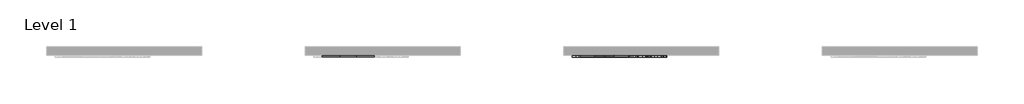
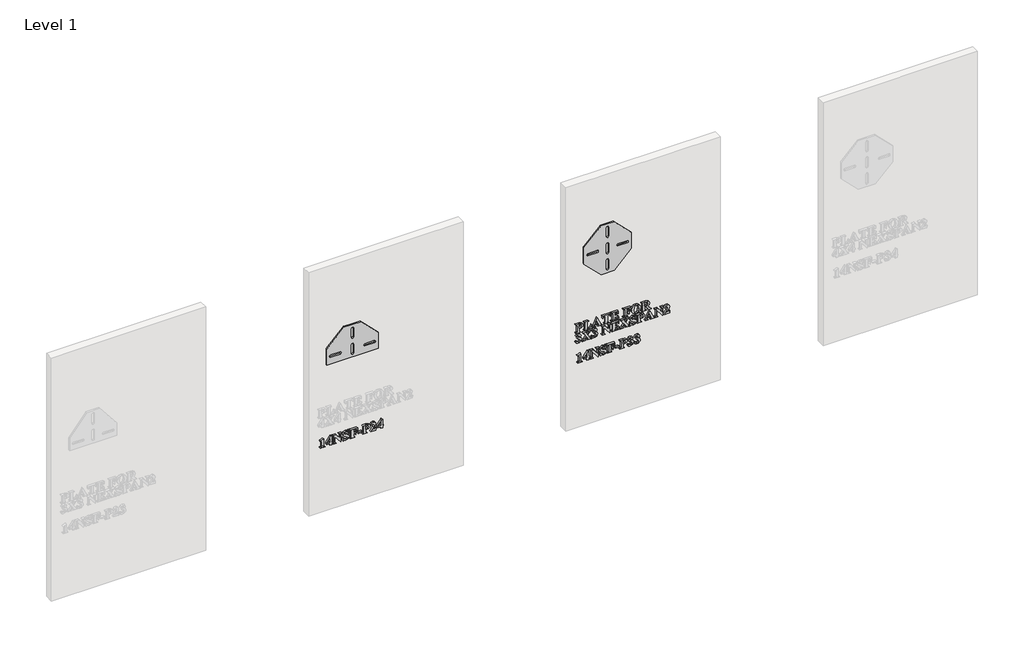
# One storey, part 16 of 21: 5 proxies.
"""IFC4 building model written with IfcOpenShell, lengths in millimetres."""

from ifc_helpers import new_model, si_unit, frame, origin, place, context, project, spatial, polyline, outline, extrude, transform, mapped, element, save
from components import generic_models_2657ff51, generic_models_131348a9

model = new_model("IFC4")

# Units and contexts
model_context = context("Model", 3, world=origin())
ifc_project = project(units=[si_unit("LENGTHUNIT", "METRE", prefix="MILLI")], contexts=[model_context])

# Site, building, storey
site = spatial("IfcSite", under=ifc_project)
building = spatial("IfcBuilding", under=site)
storey = spatial("IfcBuildingStorey", under=building, Name="Level 1", Elevation=0.0)

# Proxies
placement = place(None, origin())
element("IfcBuildingElementProxy", 1, Name="2\"\" Arial", ObjectType="2\"\" Arial", at=placement, inside=storey, context=model_context, shape_type="SweptSolid", body=[
    extrude(outline(polyline([(463.8692305, 25314.9409375), (455.0050049, 25295.1834097), (453.2321598, 25295.8482267), (454.4648412, 25300.4049926), (453.827725, 25302.4825455), (452.3111114, 25303.7152269), (447.9136245, 25304.0476353), (421.3209478, 25304.0476353), (415.2544934, 25303.5282471), (413.2046413, 25301.5407215), (412.4567222, 25295.1834097), (410.6838771, 25295.1834097), (410.6838771, 25323.5489316), (412.4567222, 25322.3162502), (413.273893, 25317.8425863), (415.3791466, 25316.0074146), (421.3209478, 25315.5711285), (463.8692305, 25314.9409375)])), frame((0.0, -15490.3579358, 0.0), z_axis=(0.0, 1.0, 0.0), x_axis=(0.0, 0.0, 1.0)), (0.0, 0.0, 1.0), 12.7),
    extrude(outline(polyline([(430.1851733, 25332.4131571), (422.2073703, 25332.4131571), (422.2073703, 25351.0280308), (410.6838771, 25351.0280308), (410.6838771, 25362.551524), (422.2073703, 25362.551524), (422.2073703, 25366.9836368), (430.1851733, 25366.9836368), (430.1851733, 25362.551524), (463.8692305, 25362.551524), (463.8692305, 25357.440744), (430.1851733, 25332.4131571)]), holes=[polyline([(430.1851733, 25335.1001255), (451.6116686, 25351.0280308), (430.1851733, 25351.0280308), (430.1851733, 25335.1001255)])]), frame((0.0, -15490.3579358, 0.0), z_axis=(0.0, 1.0, 0.0), x_axis=(0.0, 0.0, 1.0)), (0.0, 0.0, 1.0), 12.7),
    extrude(outline(polyline([(462.9828079, 25389.6151127), (462.9828079, 25371.194144), (461.2099628, 25371.194144), (460.6074725, 25374.8575622), (457.4565173, 25378.50713), (419.5481027, 25378.50713), (414.097989, 25376.9489654), (412.4567222, 25371.4157496), (410.6838771, 25371.4157496), (410.6838771, 25389.1442007), (412.4567222, 25388.0500229), (413.9179344, 25383.8741416), (419.5481027, 25382.0528203), (452.9551528, 25382.0528203), (409.7974546, 25415.8753809), (409.7974546, 25417.5097225), (452.3457373, 25417.5097225), (457.7820006, 25418.1676143), (460.0673087, 25420.002786), (461.2099628, 25424.601103), (462.9828079, 25424.601103), (462.9828079, 25406.8726518), (461.2099628, 25406.8726518), (458.9662057, 25412.7036502), (452.3457373, 25413.9640323), (431.9164674, 25413.9640323), (462.9828079, 25389.6151127)])), frame((0.0, -15490.3579358, 0.0), z_axis=(0.0, 1.0, 0.0), x_axis=(0.0, 0.0, 1.0)), (0.0, 0.0, 1.0), 12.7),
    extrude(outline(polyline([(463.8692305, 25465.3765406), (463.8692305, 25463.6036955), (460.9329558, 25462.4956673), (460.3235403, 25460.8613257), (461.5631468, 25457.100955), (463.259815, 25452.5511142), (463.8692305, 25447.4680349), (459.5409954, 25435.5359562), (449.0493534, 25430.8060609), (442.4427353, 25432.4404025), (437.0064719, 25437.1218216), (431.0992966, 25447.9666475), (427.0549937, 25455.7228449), (423.7863105, 25458.9846029), (420.2267699, 25460.0580052), (414.7905066, 25457.3918124), (412.4567222, 25450.224255), (416.771107, 25439.3725039), (429.2987508, 25432.578906), (429.2987508, 25430.8060609), (409.7974546, 25430.8060609), (409.7974546, 25432.578906), (412.4705726, 25434.4002273), (413.3431448, 25436.5401068), (412.4844229, 25439.6010347), (410.3583938, 25445.1481008), (409.7974546, 25449.8364451), (414.4788737, 25462.8973275), (425.6699585, 25468.0358082), (434.76964, 25465.4180916), (443.218355, 25452.7311688), (447.7058692, 25443.5899362), (451.2654098, 25439.6702864), (454.3263377, 25438.7838639), (459.1254848, 25441.2076756), (461.2099628, 25447.786593), (457.0756326, 25457.8003978), (446.1407794, 25463.6036955), (446.1407794, 25465.3765406), (463.8692305, 25465.3765406)])), frame((0.0, -15490.3579358, 0.0), z_axis=(0.0, 1.0, 0.0), x_axis=(0.0, 0.0, 1.0)), (0.0, 0.0, 1.0), 12.7),
    extrude(outline(polyline([(459.4371177, 25491.9692173), (459.4371177, 25496.40133), (458.8415526, 25504.9608478), (455.1296581, 25511.373561), (447.0272019, 25514.1297812), (447.0272019, 25515.9026263), (462.9828079, 25515.9026263), (462.9828079, 25472.467921), (461.2099628, 25472.467921), (461.2099628, 25474.1438137), (460.5035948, 25477.495599), (458.8484777, 25479.1507161), (454.1185824, 25479.5593015), (419.5481027, 25479.5593015), (414.963636, 25479.1576412), (413.2184916, 25477.6618032), (412.4567222, 25474.1438137), (412.4567222, 25472.467921), (410.6838771, 25472.467921), (410.6838771, 25499.0605977), (412.4567222, 25499.0605977), (412.4567222, 25497.3985554), (413.1630902, 25494.0536953), (414.8182073, 25492.391653), (419.5481027, 25491.9692173), (435.5037087, 25491.9692173), (435.5037087, 25493.7420624), (433.0868222, 25500.6533882), (423.0937929, 25504.379133), (423.0937929, 25506.1519782), (451.4593147, 25506.1519782), (451.4593147, 25504.379133), (444.0770768, 25502.5231858), (440.1989782, 25499.0398222), (439.0493989, 25493.7420624), (439.0493989, 25491.9692173), (459.4371177, 25491.9692173)])), frame((0.0, -15490.3579358, 0.0), z_axis=(0.0, 1.0, 0.0), x_axis=(0.0, 0.0, 1.0)), (0.0, 0.0, 1.0), 12.7),
    extrude(outline(polyline([(25541.6088804, -15490.3579358), (25519.4483165, -15490.3579358), (25519.4483165, -15477.6579358), (25541.6088804, -15477.6579358), (25541.6088804, -15490.3579358)])), frame((0.0, 0.0, 424.866638), z_axis=(0.0, 0.0, 1.0), x_axis=(1.0, 0.0, 0.0)), (0.0, 0.0, 1.0), 7.977803),
    extrude(outline(polyline([(434.6172861, 25565.5422894), (435.5314094, 25578.7970767), (440.427509, 25587.9313842), (449.0632037, 25591.2485436), (459.0077568, 25586.2000901), (462.9828079, 25569.5450413), (462.9828079, 25546.0409932), (461.2099628, 25546.0409932), (460.6074725, 25550.82629), (459.0008316, 25552.6199106), (454.1185824, 25553.1323736), (419.5481027, 25553.1323736), (414.6797038, 25552.6199106), (413.0730629, 25550.8470655), (412.4567222, 25546.0409932), (410.6838771, 25546.0409932), (410.6838771, 25572.6336699), (412.4567222, 25572.6336699), (413.0592126, 25567.8622235), (414.6658534, 25566.0547525), (419.5481027, 25565.5422894), (434.6172861, 25565.5422894)]), holes=[polyline([(460.3235403, 25565.5422894), (460.3235403, 25567.3289849), (457.5673201, 25575.9508293), (448.8831491, 25578.8386278), (440.0466243, 25575.9508293), (437.1934517, 25567.7306451), (437.2765538, 25565.5422894), (460.3235403, 25565.5422894)])]), frame((0.0, -15490.3579358, 0.0), z_axis=(0.0, 1.0, 0.0), x_axis=(0.0, 0.0, 1.0)), (0.0, 0.0, 1.0), 12.7),
    extrude(outline(polyline([(410.6838771, 25624.4478384), (425.7530606, 25626.0683296), (422.664432, 25623.9700012), (421.6256555, 25621.9339994), (421.3209478, 25616.5808382), (421.3209478, 25605.4174541), (440.8914958, 25622.1348295), (451.1269062, 25624.9326007), (457.0617823, 25623.0420276), (462.0479091, 25617.8135196), (463.8692305, 25610.4312817), (460.3650913, 25600.4382524), (449.0493534, 25595.4174997), (453.516092, 25599.5864557), (455.0050049, 25605.1681478), (452.3249617, 25611.6431875), (445.6006156, 25614.29553), (434.2294763, 25611.1930511), (410.6838771, 25593.0213887), (410.6838771, 25624.4478384)])), frame((0.0, -15490.3579358, 0.0), z_axis=(0.0, 1.0, 0.0), x_axis=(0.0, 0.0, 1.0)), (0.0, 0.0, 1.0), 12.7),
    extrude(outline(polyline([(430.1851733, 25634.6832488), (422.2073703, 25634.6832488), (422.2073703, 25653.2981225), (410.6838771, 25653.2981225), (410.6838771, 25664.8216157), (422.2073703, 25664.8216157), (422.2073703, 25669.2537285), (430.1851733, 25669.2537285), (430.1851733, 25664.8216157), (463.8692305, 25664.8216157), (463.8692305, 25659.7108357), (430.1851733, 25634.6832488)]), holes=[polyline([(430.1851733, 25637.3702172), (451.6116686, 25653.2981225), (430.1851733, 25653.2981225), (430.1851733, 25637.3702172)])]), frame((0.0, -15490.3579358, 0.0), z_axis=(0.0, 1.0, 0.0), x_axis=(0.0, 0.0, 1.0)), (0.0, 0.0, 1.0), 12.7),
])
element("IfcBuildingElementProxy", 2, Name="2\"\" Arial", ObjectType="2\"\" Arial", at=placement, inside=storey, context=model_context, shape_type="SweptSolid", body=[
    extrude(outline(polyline([(624.2127681, 26828.7890158), (625.1268914, 26842.043803), (630.022991, 26851.1781105), (638.6586857, 26854.4952699), (648.6032388, 26849.4468164), (652.5782899, 26832.7917676), (652.5782899, 26809.2877195), (650.8054448, 26809.2877195), (650.2029545, 26814.0730163), (648.5963136, 26815.8666369), (643.7140644, 26816.3791), (609.1435847, 26816.3791), (604.2751858, 26815.8666369), (602.6685449, 26814.0937918), (602.0522042, 26809.2877195), (600.2793591, 26809.2877195), (600.2793591, 26835.8803962), (602.0522042, 26835.8803962), (602.6546946, 26831.1089498), (604.2613354, 26829.3014788), (609.1435847, 26828.7890158), (624.2127681, 26828.7890158)]), holes=[polyline([(649.9190223, 26828.7890158), (649.9190223, 26830.5757112), (647.1628021, 26839.1975556), (638.4786311, 26842.0853541), (629.6421063, 26839.1975556), (626.7889337, 26830.9773714), (626.8720358, 26828.7890158), (649.9190223, 26828.7890158)])]), frame((0.0, -15490.3579358, 0.0), z_axis=(0.0, 1.0, 0.0), x_axis=(0.0, 0.0, 1.0)), (0.0, 0.0, 1.0), 12.7),
    extrude(outline(polyline([(619.7806553, 26905.9077782), (619.7806553, 26904.1349331), (610.1269597, 26900.3399365), (605.3416629, 26895.5892656), (603.8250493, 26888.7194908), (603.8250493, 26884.4120312), (604.1713081, 26879.7998638), (605.7848742, 26877.999318), (610.8333277, 26877.5422564), (643.7140644, 26877.5422564), (648.298531, 26877.9162159), (650.0436754, 26879.3289518), (650.8054448, 26882.597635), (650.8054448, 26884.6336368), (652.5782899, 26884.6336368), (652.5782899, 26858.0409601), (650.8054448, 26858.0409601), (650.8054448, 26859.7168528), (650.0990768, 26863.0686381), (648.4439597, 26864.7237552), (643.7140644, 26865.1323406), (609.1435847, 26865.1323406), (604.559118, 26864.7306804), (602.8139736, 26863.2348423), (602.0522042, 26859.7168528), (602.0522042, 26858.0409601), (600.2793591, 26858.0409601), (600.2793591, 26904.1349331), (619.7806553, 26905.9077782)])), frame((0.0, -15490.3579358, 0.0), z_axis=(0.0, 1.0, 0.0), x_axis=(0.0, 0.0, 1.0)), (0.0, 0.0, 1.0), 12.7),
    extrude(outline(polyline([(615.3485426, 26940.8660677), (608.7003734, 26943.7884921), (604.559118, 26945.1735273), (602.869375, 26944.3286558), (602.0522042, 26939.0101205), (600.2793591, 26939.0101205), (600.2793591, 26964.4116669), (602.0522042, 26964.4116669), (603.4095388, 26960.7136228), (610.9025794, 26956.28151), (653.4647125, 26936.6278599), (612.066009, 26917.8052309), (604.3375124, 26913.3384922), (602.0522042, 26908.7193997), (600.2793591, 26908.7193997), (600.2793591, 26926.4894019), (602.0522042, 26926.4894019), (602.9386268, 26921.3647715), (606.0272554, 26919.5919264), (610.0300072, 26920.6722539), (615.3485426, 26923.0822152), (615.3485426, 26940.8660677)]), holes=[polyline([(618.8942328, 26939.3148283), (618.8942328, 26924.6888561), (635.2376487, 26932.0987946), (618.8942328, 26939.3148283)])]), frame((0.0, -15490.3579358, 0.0), z_axis=(0.0, 1.0, 0.0), x_axis=(0.0, 0.0, 1.0)), (0.0, 0.0, 1.0), 12.7),
    extrude(outline(polyline([(652.5782899, 27014.05133), (652.5782899, 26967.9573571), (637.5091065, 26967.9573571), (637.5091065, 26969.7302022), (646.7195908, 26973.8299065), (649.0325997, 26981.2536955), (649.0325997, 26984.7993857), (609.1435847, 26984.7993857), (604.559118, 26984.3977255), (602.8139736, 26982.8741867), (602.0522042, 26979.3700475), (602.0522042, 26977.7080052), (600.2793591, 26977.7080052), (600.2793591, 27004.3006819), (602.0522042, 27004.3006819), (602.0522042, 27002.65249), (602.7585722, 26999.2868543), (604.4136893, 26997.6317372), (609.1435847, 26997.2093015), (649.0325997, 26997.2093015), (649.0325997, 27000.7549917), (648.3123814, 27005.6857172), (644.7874667, 27009.646918), (637.5091065, 27012.2784849), (637.5091065, 27014.05133), (652.5782899, 27014.05133)])), frame((0.0, -15490.3579358, 0.0), z_axis=(0.0, 1.0, 0.0), x_axis=(0.0, 0.0, 1.0)), (0.0, 0.0, 1.0), 12.7),
    extrude(outline(polyline([(649.0325997, 27038.8711616), (649.0325997, 27043.3032744), (648.3400821, 27051.3364788), (644.7320653, 27057.0289737), (636.6226839, 27060.145303), (636.6226839, 27061.9181481), (652.5782899, 27061.9181481), (652.5782899, 27019.3698654), (650.8054448, 27019.3698654), (650.8054448, 27021.045758), (649.7805187, 27024.896156), (647.827619, 27026.2811912), (643.7140644, 27026.4612458), (609.1435847, 27026.4612458), (604.559118, 27026.0595856), (602.8139736, 27024.5637475), (602.0522042, 27021.045758), (602.0522042, 27019.3698654), (600.2793591, 27019.3698654), (600.2793591, 27063.1785302), (616.8859317, 27064.1203541), (606.4427659, 27058.0054235), (602.9386268, 27046.6827604), (602.9386268, 27043.6633836), (603.5549675, 27040.5470543), (605.1339076, 27039.2243456), (610.4039667, 27038.8711616), (625.0991907, 27038.8711616), (624.0950401, 27043.878064), (620.1753904, 27046.9112912), (612.6892749, 27048.6218097), (612.6892749, 27050.3946548), (640.1683741, 27050.3946548), (640.1683741, 27048.6218097), (630.9024884, 27046.1148959), (627.7584584, 27038.8711616), (649.0325997, 27038.8711616)])), frame((0.0, -15490.3579358, 0.0), z_axis=(0.0, 1.0, 0.0), x_axis=(0.0, 0.0, 1.0)), (0.0, 0.0, 1.0), 12.7),
    extrude(outline(polyline([(649.0325997, 27110.6713887), (649.0325997, 27115.1035015), (648.4370346, 27123.6630193), (644.7251401, 27130.0757325), (636.6226839, 27132.8319526), (636.6226839, 27134.6047977), (652.5782899, 27134.6047977), (652.5782899, 27091.1700924), (650.8054448, 27091.1700924), (650.8054448, 27092.8459851), (650.0990768, 27096.1977704), (648.4439597, 27097.8528875), (643.7140644, 27098.2614729), (609.1435847, 27098.2614729), (604.559118, 27097.8598127), (602.8139736, 27096.3639746), (602.0522042, 27092.8459851), (602.0522042, 27091.1700924), (600.2793591, 27091.1700924), (600.2793591, 27117.7627691), (602.0522042, 27117.7627691), (602.0522042, 27116.1007268), (602.7585722, 27112.7558667), (604.4136893, 27111.0938244), (609.1435847, 27110.6713887), (625.0991907, 27110.6713887), (625.0991907, 27112.4442338), (622.6823042, 27119.3555597), (612.6892749, 27123.0813045), (612.6892749, 27124.8541496), (641.0547967, 27124.8541496), (641.0547967, 27123.0813045), (633.6725588, 27121.2253572), (629.7944602, 27117.7419936), (628.6448809, 27112.4442338), (628.6448809, 27110.6713887), (649.0325997, 27110.6713887)])), frame((0.0, -15490.3579358, 0.0), z_axis=(0.0, 1.0, 0.0), x_axis=(0.0, 0.0, 1.0)), (0.0, 0.0, 1.0), 12.7),
    extrude(outline(polyline([(653.4647125, 27167.0561735), (651.8788471, 27156.514324), (646.1794271, 27147.7695577), (637.4606302, 27141.8848892), (626.8166344, 27139.923333), (617.1733265, 27141.4295589), (608.9358294, 27145.9482364), (601.7786598, 27155.1656459), (599.3929366, 27167.5547862), (601.8929252, 27179.9127631), (609.392891, 27189.1197849), (626.8581854, 27194.8815315), (637.4969874, 27192.9494074), (646.2002026, 27187.1530349), (651.884041, 27178.2645712), (653.4647125, 27167.0561735)]), holes=[polyline([(650.8054448, 27167.5132351), (648.6863409, 27174.1267784), (641.4356814, 27178.8497486), (625.9440622, 27180.6987706), (611.8444034, 27178.8843745), (603.9774032, 27173.8151455), (602.0522042, 27167.4439833), (606.5120177, 27158.6213088), (626.2487699, 27154.1060939), (643.4924587, 27157.0285183), (648.9771983, 27161.4502433), (650.8054448, 27167.5132351)])]), frame((0.0, -15490.3579358, 0.0), z_axis=(0.0, 1.0, 0.0), x_axis=(0.0, 0.0, 1.0)), (0.0, 0.0, 1.0), 12.7),
    extrude(outline(polyline([(624.2127681, 27218.8149406), (624.2127681, 27222.249828), (600.2793591, 27239.0364551), (600.2793591, 27255.1582654), (602.0522042, 27255.1582654), (603.3956884, 27251.8895822), (607.7723998, 27248.7455522), (625.4592998, 27236.3356364), (628.9911397, 27243.2885133), (638.395529, 27247.1804624), (646.5326111, 27244.417317), (651.2902072, 27237.2843855), (652.5782899, 27223.4825093), (652.5782899, 27199.3136443), (650.8054448, 27199.3136443), (650.2029545, 27204.0989411), (648.5963136, 27205.8925617), (643.7140644, 27206.4050248), (609.1435847, 27206.4050248), (604.2751858, 27205.8925617), (602.6685449, 27204.1197166), (602.0522042, 27199.3136443), (600.2793591, 27199.3136443), (600.2793591, 27225.906321), (602.0522042, 27225.906321), (602.6546946, 27221.1210242), (604.2613354, 27219.3274036), (609.1435847, 27218.8149406), (624.2127681, 27218.8149406)]), holes=[polyline([(649.9190223, 27218.8149406), (649.9190223, 27222.9423456), (647.0450741, 27231.9727754), (638.160073, 27234.7705466), (631.4288018, 27233.2470078), (627.862336, 27229.0572762), (626.8720358, 27221.0171466), (626.8720358, 27218.8149406), (649.9190223, 27218.8149406)])]), frame((0.0, -15490.3579358, 0.0), z_axis=(0.0, 1.0, 0.0), x_axis=(0.0, 0.0, 1.0)), (0.0, 0.0, 1.0), 12.7),
    extrude(outline(polyline([(564.5485426, 26818.1519451), (558.3782106, 26830.0424727), (548.6206373, 26834.1075511), (542.8796662, 26832.0022975), (540.6151335, 26826.9607692), (543.7314628, 26819.7031846), (547.1524999, 26815.20182), (547.706514, 26812.7364573), (546.2176011, 26809.7101553), (542.6234346, 26808.401297), (537.9004645, 26810.6589044), (535.2965982, 26820.6034575), (536.8114805, 26829.779316), (541.3561274, 26836.8914719), (548.0648919, 26841.4517005), (556.0721269, 26842.9717767), (564.6177943, 26840.1324544), (570.3518402, 26831.8914947), (574.5554222, 26838.2765072), (579.5207736, 26840.312509), (586.4182491, 26836.6767915), (589.3683741, 26827.4455316), (586.9237869, 26817.4940533), (579.105263, 26811.0605646), (584.0498388, 26820.4511036), (581.6883537, 26826.39983), (576.0304847, 26828.7890158), (571.3282901, 26827.5078582), (567.8795523, 26824.4677058), (564.5485426, 26818.1519451)])), frame((0.0, -15490.3579358, 0.0), z_axis=(0.0, 1.0, 0.0), x_axis=(0.0, 0.0, 1.0)), (0.0, 0.0, 1.0), 12.7),
    extrude(outline(polyline([(566.5845444, 26880.5062318), (578.4681468, 26889.9937232), (584.2021927, 26895.0075508), (586.1481672, 26897.9715262), (586.7091065, 26901.6280193), (588.4819516, 26901.6280193), (588.4819516, 26882.1959748), (586.7091065, 26882.1959748), (586.2243441, 26885.6585629), (584.88086, 26887.3760066), (583.0110624, 26887.9715718), (575.9473826, 26883.7333639), (569.5069687, 26878.5810328), (579.146814, 26872.2514217), (584.3406962, 26869.3289974), (586.0304392, 26870.2154199), (586.7091065, 26874.6336823), (588.4819516, 26874.6336823), (588.4819516, 26849.0936324), (586.7091065, 26849.0936324), (585.9334867, 26851.8637029), (584.2021927, 26853.8997047), (579.0775623, 26857.6392999), (559.4377625, 26870.5478284), (546.8616425, 26860.4786222), (539.7425613, 26853.2764389), (537.9558659, 26847.8886518), (536.1830208, 26847.8886518), (536.1830208, 26868.2348195), (537.9558659, 26868.2348195), (538.1774715, 26864.9245853), (539.4655543, 26862.1891407), (541.4046036, 26861.2680922), (547.000146, 26864.8414832), (556.5291885, 26872.459177), (545.781315, 26879.5228568), (540.4627797, 26882.4868322), (538.8422884, 26881.6004096), (537.9558659, 26877.6807599), (536.1830208, 26877.6807599), (536.1830208, 26902.9715034), (537.9558659, 26902.9715034), (539.2993501, 26899.3704118), (545.6428115, 26894.2596318), (566.5845444, 26880.5062318)])), frame((0.0, -15490.3579358, 0.0), z_axis=(0.0, 1.0, 0.0), x_axis=(0.0, 0.0, 1.0)), (0.0, 0.0, 1.0), 12.7),
    extrude(outline(polyline([(564.5485426, 26913.8855812), (558.3782106, 26925.7761087), (548.6206373, 26929.8411872), (542.8796662, 26927.7359336), (540.6151335, 26922.6944053), (543.7314628, 26915.4368206), (547.1524999, 26910.9354561), (547.706514, 26908.4700934), (546.2176011, 26905.4437914), (542.6234346, 26904.1349331), (537.9004645, 26906.3925405), (535.2965982, 26916.3370936), (536.8114805, 26925.512952), (541.3561274, 26932.625108), (548.0648919, 26937.1853366), (556.0721269, 26938.7054127), (564.6177943, 26935.8660905), (570.3518402, 26927.6251308), (574.5554222, 26934.0101433), (579.5207736, 26936.0461451), (586.4182491, 26932.4104276), (589.3683741, 26923.1791677), (586.9237869, 26913.2276894), (579.105263, 26906.7942007), (584.0498388, 26916.1847397), (581.6883537, 26922.1334661), (576.0304847, 26924.5226518), (571.3282901, 26923.2414942), (567.8795523, 26920.2013419), (564.5485426, 26913.8855812)])), frame((0.0, -15490.3579358, 0.0), z_axis=(0.0, 1.0, 0.0), x_axis=(0.0, 0.0, 1.0)), (0.0, 0.0, 1.0), 12.7),
    extrude(outline(polyline([(588.4819516, 26982.61103), (588.4819516, 26964.1900612), (586.7091065, 26964.1900612), (586.1066161, 26967.8534795), (582.955661, 26971.5030473), (545.0472463, 26971.5030473), (539.5971326, 26969.9448827), (537.9558659, 26964.4116669), (536.1830208, 26964.4116669), (536.1830208, 26982.140118), (537.9558659, 26981.0459402), (539.4170781, 26976.8700589), (545.0472463, 26975.0487376), (578.4542964, 26975.0487376), (535.2965982, 27008.8712982), (535.2965982, 27010.5056398), (577.8448809, 27010.5056398), (583.2811442, 27011.1635316), (585.5664524, 27012.9987033), (586.7091065, 27017.5970203), (588.4819516, 27017.5970203), (588.4819516, 26999.8685691), (586.7091065, 26999.8685691), (584.4653494, 27005.6995675), (577.8448809, 27006.9599496), (557.4156111, 27006.9599496), (588.4819516, 26982.61103)])), frame((0.0, -15490.3579358, 0.0), z_axis=(0.0, 1.0, 0.0), x_axis=(0.0, 0.0, 1.0)), (0.0, 0.0, 1.0), 12.7),
    extrude(outline(polyline([(584.9362614, 27041.5304293), (584.9362614, 27045.9625421), (584.2437437, 27053.9957465), (580.6357269, 27059.6882413), (572.5263456, 27062.8045706), (572.5263456, 27064.5774157), (588.4819516, 27064.5774157), (588.4819516, 27022.029133), (586.7091065, 27022.029133), (586.7091065, 27023.7050257), (585.6841804, 27027.5554237), (583.7312807, 27028.9404589), (579.617726, 27029.1205135), (545.0472463, 27029.1205135), (540.4627797, 27028.7188533), (538.7176353, 27027.2230152), (537.9558659, 27023.7050257), (537.9558659, 27022.029133), (536.1830208, 27022.029133), (536.1830208, 27065.8377978), (552.7895933, 27066.7796218), (542.3464276, 27060.6646912), (538.8422884, 27049.3420281), (538.8422884, 27046.3226512), (539.4586291, 27043.2063219), (541.0375693, 27041.8836133), (546.3076284, 27041.5304293), (561.0028523, 27041.5304293), (559.9987018, 27046.5373317), (556.079052, 27049.5705589), (548.5929366, 27051.2810774), (548.5929366, 27053.0539225), (576.0720358, 27053.0539225), (576.0720358, 27051.2810774), (566.80615, 27048.7741636), (563.66212, 27041.5304293), (584.9362614, 27041.5304293)])), frame((0.0, -15490.3579358, 0.0), z_axis=(0.0, 1.0, 0.0), x_axis=(0.0, 0.0, 1.0)), (0.0, 0.0, 1.0), 12.7),
    extrude(outline(polyline([(566.5845444, 27104.7711385), (578.4681468, 27114.25863), (584.2021927, 27119.2724575), (586.1481672, 27122.236433), (586.7091065, 27125.892926), (588.4819516, 27125.892926), (588.4819516, 27106.4608815), (586.7091065, 27106.4608815), (586.2243441, 27109.9234696), (584.88086, 27111.6409134), (583.0110624, 27112.2364785), (575.9473826, 27107.9982707), (569.5069687, 27102.8459395), (579.146814, 27096.5163285), (584.3406962, 27093.5939041), (586.0304392, 27094.4803267), (586.7091065, 27098.8985891), (588.4819516, 27098.8985891), (588.4819516, 27073.3585392), (586.7091065, 27073.3585392), (585.9334867, 27076.1286097), (584.2021927, 27078.1646115), (579.0775623, 27081.9042067), (559.4377625, 27094.8127351), (546.8616425, 27084.7435289), (539.7425613, 27077.5413456), (537.9558659, 27072.1535585), (536.1830208, 27072.1535585), (536.1830208, 27092.4997263), (537.9558659, 27092.4997263), (538.1774715, 27089.189492), (539.4655543, 27086.4540474), (541.4046036, 27085.532999), (547.000146, 27089.1063899), (556.5291885, 27096.7240838), (545.781315, 27103.7877635), (540.4627797, 27106.7517389), (538.8422884, 27105.8653164), (537.9558659, 27101.9456666), (536.1830208, 27101.9456666), (536.1830208, 27127.2364102), (537.9558659, 27127.2364102), (539.2993501, 27123.6353186), (545.6428115, 27118.5245385), (566.5845444, 27104.7711385)])), frame((0.0, -15490.3579358, 0.0), z_axis=(0.0, 1.0, 0.0), x_axis=(0.0, 0.0, 1.0)), (0.0, 0.0, 1.0), 12.7),
    extrude(outline(polyline([(589.3683741, 27166.5160097), (589.3683741, 27164.7431646), (586.4320994, 27163.6351364), (585.8226839, 27162.0007948), (587.0622905, 27158.2404241), (588.7589586, 27153.6905834), (589.3683741, 27148.607504), (585.040139, 27136.6754254), (574.548497, 27131.94553), (567.9418789, 27133.5798716), (562.5056156, 27138.2612907), (556.5984403, 27149.1061167), (552.5541373, 27156.8623141), (549.2854542, 27160.1240721), (545.7259136, 27161.1974744), (540.2896503, 27158.5312815), (537.9558659, 27151.3637242), (542.2702507, 27140.511973), (554.7978944, 27133.7183751), (554.7978944, 27131.94553), (535.2965982, 27131.94553), (535.2965982, 27133.7183751), (537.9697162, 27135.5396965), (538.8422884, 27137.6795759), (537.9835666, 27140.7405038), (535.8575375, 27146.28757), (535.2965982, 27150.9759143), (539.9780173, 27164.0367966), (551.1691021, 27169.1752774), (560.2687837, 27166.5575608), (568.7174987, 27153.8706379), (573.2050128, 27144.7294053), (576.7645534, 27140.8097556), (579.8254813, 27139.923333), (584.6246284, 27142.3471447), (586.7091065, 27148.9260621), (582.5747763, 27158.9398669), (571.639923, 27164.7431646), (571.639923, 27166.5160097), (589.3683741, 27166.5160097)])), frame((0.0, -15490.3579358, 0.0), z_axis=(0.0, 1.0, 0.0), x_axis=(0.0, 0.0, 1.0)), (0.0, 0.0, 1.0), 12.7),
    extrude(outline(polyline([(560.1164298, 27192.2222639), (561.030553, 27205.4770512), (565.9266526, 27214.6113586), (574.5623474, 27217.928518), (584.5069004, 27212.8800645), (588.4819516, 27196.2250157), (588.4819516, 27172.7209676), (586.7091065, 27172.7209676), (586.1066161, 27177.5062644), (584.4999753, 27179.299885), (579.617726, 27179.8123481), (545.0472463, 27179.8123481), (540.1788474, 27179.299885), (538.5722066, 27177.5270399), (537.9558659, 27172.7209676), (536.1830208, 27172.7209676), (536.1830208, 27199.3136443), (537.9558659, 27199.3136443), (538.5583562, 27194.5421979), (540.1649971, 27192.7347269), (545.0472463, 27192.2222639), (560.1164298, 27192.2222639)]), holes=[polyline([(585.8226839, 27192.2222639), (585.8226839, 27194.0089593), (583.0664638, 27202.6308037), (574.3822928, 27205.5186022), (565.5457679, 27202.6308037), (562.6925953, 27194.4106195), (562.7756975, 27192.2222639), (585.8226839, 27192.2222639)])]), frame((0.0, -15490.3579358, 0.0), z_axis=(0.0, 1.0, 0.0), x_axis=(0.0, 0.0, 1.0)), (0.0, 0.0, 1.0), 12.7),
    extrude(outline(polyline([(551.2522042, 27252.000385), (544.604035, 27254.9228094), (540.4627797, 27256.3078446), (538.7730367, 27255.4629731), (537.9558659, 27250.1444378), (536.1830208, 27250.1444378), (536.1830208, 27275.5459842), (537.9558659, 27275.5459842), (539.3132004, 27271.8479401), (546.8062411, 27267.4158273), (589.3683741, 27247.7621772), (547.9696707, 27228.9395482), (540.241174, 27224.4728095), (537.9558659, 27219.853717), (536.1830208, 27219.853717), (536.1830208, 27237.6237192), (537.9558659, 27237.6237192), (538.8422884, 27232.4990888), (541.930917, 27230.7262437), (545.9336689, 27231.8065711), (551.2522042, 27234.2165325), (551.2522042, 27252.000385)]), holes=[polyline([(554.7978944, 27250.4491455), (554.7978944, 27235.8231734), (571.1413103, 27243.2331119), (554.7978944, 27250.4491455)])]), frame((0.0, -15490.3579358, 0.0), z_axis=(0.0, 1.0, 0.0), x_axis=(0.0, 0.0, 1.0)), (0.0, 0.0, 1.0), 12.7),
    extrude(outline(polyline([(588.4819516, 27295.5181924), (588.4819516, 27277.0972236), (586.7091065, 27277.0972236), (586.1066161, 27280.7606419), (582.955661, 27284.4102097), (545.0472463, 27284.4102097), (539.5971326, 27282.8520451), (537.9558659, 27277.3188293), (536.1830208, 27277.3188293), (536.1830208, 27295.0472804), (537.9558659, 27293.9531026), (539.4170781, 27289.7772213), (545.0472463, 27287.9558999), (578.4542964, 27287.9558999), (535.2965982, 27321.7784606), (535.2965982, 27323.4128022), (577.8448809, 27323.4128022), (583.2811442, 27324.0706939), (585.5664524, 27325.9058656), (586.7091065, 27330.5041827), (588.4819516, 27330.5041827), (588.4819516, 27312.7757315), (586.7091065, 27312.7757315), (584.4653494, 27318.6067299), (577.8448809, 27319.867112), (557.4156111, 27319.867112), (588.4819516, 27295.5181924)])), frame((0.0, -15490.3579358, 0.0), z_axis=(0.0, 1.0, 0.0), x_axis=(0.0, 0.0, 1.0)), (0.0, 0.0, 1.0), 12.7),
    extrude(outline(polyline([(536.1830208, 27364.5899), (551.2522042, 27366.2103913), (548.1635756, 27364.1120629), (547.1247992, 27362.076061), (546.8200914, 27356.7228998), (546.8200914, 27345.5595158), (566.3906394, 27362.2768912), (576.6260499, 27365.0746624), (582.5609259, 27363.1840892), (587.5470528, 27357.9555812), (589.3683741, 27350.5733433), (585.864235, 27340.5803141), (574.548497, 27335.5595613), (579.0152357, 27339.7285174), (580.5041486, 27345.3102094), (577.8241054, 27351.7852492), (571.0997593, 27354.4375917), (559.7286199, 27351.3351127), (536.1830208, 27333.1634503), (536.1830208, 27364.5899)])), frame((0.0, -15490.3579358, 0.0), z_axis=(0.0, 1.0, 0.0), x_axis=(0.0, 0.0, 1.0)), (0.0, 0.0, 1.0), 12.7),
])
element("IfcBuildingElementProxy", 3, Name="2\"\" Arial", ObjectType="2\"\" Arial", at=placement, inside=storey, context=model_context, shape_type="SweptSolid", body=[
    extrude(outline(polyline([(463.8692305, 26838.9409375), (455.0050049, 26819.1834097), (453.2321598, 26819.8482267), (454.4648412, 26824.4049926), (453.827725, 26826.4825455), (452.3111114, 26827.7152269), (447.9136245, 26828.0476353), (421.3209478, 26828.0476353), (415.2544934, 26827.5282471), (413.2046413, 26825.5407215), (412.4567222, 26819.1834097), (410.6838771, 26819.1834097), (410.6838771, 26847.5489316), (412.4567222, 26846.3162502), (413.273893, 26841.8425863), (415.3791466, 26840.0074146), (421.3209478, 26839.5711285), (463.8692305, 26838.9409375)])), frame((0.0, -15490.3579358, 0.0), z_axis=(0.0, 1.0, 0.0), x_axis=(0.0, 0.0, 1.0)), (0.0, 0.0, 1.0), 12.7),
    extrude(outline(polyline([(430.1851733, 26856.4131571), (422.2073703, 26856.4131571), (422.2073703, 26875.0280308), (410.6838771, 26875.0280308), (410.6838771, 26886.551524), (422.2073703, 26886.551524), (422.2073703, 26890.9836368), (430.1851733, 26890.9836368), (430.1851733, 26886.551524), (463.8692305, 26886.551524), (463.8692305, 26881.440744), (430.1851733, 26856.4131571)]), holes=[polyline([(430.1851733, 26859.1001255), (451.6116686, 26875.0280308), (430.1851733, 26875.0280308), (430.1851733, 26859.1001255)])]), frame((0.0, -15490.3579358, 0.0), z_axis=(0.0, 1.0, 0.0), x_axis=(0.0, 0.0, 1.0)), (0.0, 0.0, 1.0), 12.7),
    extrude(outline(polyline([(462.9828079, 26913.6151127), (462.9828079, 26895.194144), (461.2099628, 26895.194144), (460.6074725, 26898.8575622), (457.4565173, 26902.50713), (419.5481027, 26902.50713), (414.097989, 26900.9489654), (412.4567222, 26895.4157496), (410.6838771, 26895.4157496), (410.6838771, 26913.1442007), (412.4567222, 26912.0500229), (413.9179344, 26907.8741416), (419.5481027, 26906.0528203), (452.9551528, 26906.0528203), (409.7974546, 26939.8753809), (409.7974546, 26941.5097225), (452.3457373, 26941.5097225), (457.7820006, 26942.1676143), (460.0673087, 26944.002786), (461.2099628, 26948.601103), (462.9828079, 26948.601103), (462.9828079, 26930.8726518), (461.2099628, 26930.8726518), (458.9662057, 26936.7036502), (452.3457373, 26937.9640323), (431.9164674, 26937.9640323), (462.9828079, 26913.6151127)])), frame((0.0, -15490.3579358, 0.0), z_axis=(0.0, 1.0, 0.0), x_axis=(0.0, 0.0, 1.0)), (0.0, 0.0, 1.0), 12.7),
    extrude(outline(polyline([(463.8692305, 26989.3765406), (463.8692305, 26987.6036955), (460.9329558, 26986.4956673), (460.3235403, 26984.8613257), (461.5631468, 26981.100955), (463.259815, 26976.5511142), (463.8692305, 26971.4680349), (459.5409954, 26959.5359562), (449.0493534, 26954.8060609), (442.4427353, 26956.4404025), (437.0064719, 26961.1218216), (431.0992966, 26971.9666475), (427.0549937, 26979.7228449), (423.7863105, 26982.9846029), (420.2267699, 26984.0580052), (414.7905066, 26981.3918124), (412.4567222, 26974.224255), (416.771107, 26963.3725039), (429.2987508, 26956.578906), (429.2987508, 26954.8060609), (409.7974546, 26954.8060609), (409.7974546, 26956.578906), (412.4705726, 26958.4002273), (413.3431448, 26960.5401068), (412.4844229, 26963.6010347), (410.3583938, 26969.1481008), (409.7974546, 26973.8364451), (414.4788737, 26986.8973275), (425.6699585, 26992.0358082), (434.76964, 26989.4180916), (443.218355, 26976.7311688), (447.7058692, 26967.5899362), (451.2654098, 26963.6702864), (454.3263377, 26962.7838639), (459.1254848, 26965.2076756), (461.2099628, 26971.786593), (457.0756326, 26981.8003978), (446.1407794, 26987.6036955), (446.1407794, 26989.3765406), (463.8692305, 26989.3765406)])), frame((0.0, -15490.3579358, 0.0), z_axis=(0.0, 1.0, 0.0), x_axis=(0.0, 0.0, 1.0)), (0.0, 0.0, 1.0), 12.7),
    extrude(outline(polyline([(459.4371177, 27015.9692173), (459.4371177, 27020.40133), (458.8415526, 27028.9608478), (455.1296581, 27035.373561), (447.0272019, 27038.1297812), (447.0272019, 27039.9026263), (462.9828079, 27039.9026263), (462.9828079, 26996.467921), (461.2099628, 26996.467921), (461.2099628, 26998.1438137), (460.5035948, 27001.495599), (458.8484777, 27003.1507161), (454.1185824, 27003.5593015), (419.5481027, 27003.5593015), (414.963636, 27003.1576412), (413.2184916, 27001.6618032), (412.4567222, 26998.1438137), (412.4567222, 26996.467921), (410.6838771, 26996.467921), (410.6838771, 27023.0605977), (412.4567222, 27023.0605977), (412.4567222, 27021.3985554), (413.1630902, 27018.0536953), (414.8182073, 27016.391653), (419.5481027, 27015.9692173), (435.5037087, 27015.9692173), (435.5037087, 27017.7420624), (433.0868222, 27024.6533882), (423.0937929, 27028.379133), (423.0937929, 27030.1519782), (451.4593147, 27030.1519782), (451.4593147, 27028.379133), (444.0770768, 27026.5231858), (440.1989782, 27023.0398222), (439.0493989, 27017.7420624), (439.0493989, 27015.9692173), (459.4371177, 27015.9692173)])), frame((0.0, -15490.3579358, 0.0), z_axis=(0.0, 1.0, 0.0), x_axis=(0.0, 0.0, 1.0)), (0.0, 0.0, 1.0), 12.7),
    extrude(outline(polyline([(27065.6088804, -15490.3579358), (27043.4483165, -15490.3579358), (27043.4483165, -15477.6579358), (27065.6088804, -15477.6579358), (27065.6088804, -15490.3579358)])), frame((0.0, 0.0, 424.866638), z_axis=(0.0, 0.0, 1.0), x_axis=(1.0, 0.0, 0.0)), (0.0, 0.0, 1.0), 7.977803),
    extrude(outline(polyline([(434.6172861, 27089.5422894), (435.5314094, 27102.7970767), (440.427509, 27111.9313842), (449.0632037, 27115.2485436), (459.0077568, 27110.2000901), (462.9828079, 27093.5450413), (462.9828079, 27070.0409932), (461.2099628, 27070.0409932), (460.6074725, 27074.82629), (459.0008316, 27076.6199106), (454.1185824, 27077.1323736), (419.5481027, 27077.1323736), (414.6797038, 27076.6199106), (413.0730629, 27074.8470655), (412.4567222, 27070.0409932), (410.6838771, 27070.0409932), (410.6838771, 27096.6336699), (412.4567222, 27096.6336699), (413.0592126, 27091.8622235), (414.6658534, 27090.0547525), (419.5481027, 27089.5422894), (434.6172861, 27089.5422894)]), holes=[polyline([(460.3235403, 27089.5422894), (460.3235403, 27091.3289849), (457.5673201, 27099.9508293), (448.8831491, 27102.8386278), (440.0466243, 27099.9508293), (437.1934517, 27091.7306451), (437.2765538, 27089.5422894), (460.3235403, 27089.5422894)])]), frame((0.0, -15490.3579358, 0.0), z_axis=(0.0, 1.0, 0.0), x_axis=(0.0, 0.0, 1.0)), (0.0, 0.0, 1.0), 12.7),
    extrude(outline(polyline([(439.0493989, 27126.7720368), (432.8790669, 27138.6625644), (423.1214936, 27142.7276428), (417.3805225, 27140.6223892), (415.1159899, 27135.580861), (418.2323192, 27128.3232763), (421.6533562, 27123.8219117), (422.2073703, 27121.356549), (420.7184575, 27118.330247), (417.124291, 27117.0213887), (412.4013208, 27119.2789961), (409.7974546, 27129.2235492), (411.3123369, 27138.3994077), (415.8569837, 27145.5115637), (422.5657482, 27150.0717922), (430.5729832, 27151.5918684), (439.1186507, 27148.7525461), (444.8526966, 27140.5115864), (449.0562786, 27146.8965989), (454.0216299, 27148.9326007), (460.9191054, 27145.2968832), (463.8692305, 27136.0656233), (461.4246433, 27126.1141451), (453.6061193, 27119.6806563), (458.5506952, 27129.0711953), (456.1892101, 27135.0199217), (450.5313411, 27137.4091075), (445.8291464, 27136.1279499), (442.3804087, 27133.0877975), (439.0493989, 27126.7720368)])), frame((0.0, -15490.3579358, 0.0), z_axis=(0.0, 1.0, 0.0), x_axis=(0.0, 0.0, 1.0)), (0.0, 0.0, 1.0), 12.7),
    extrude(outline(polyline([(439.0493989, 27166.6610518), (432.8790669, 27178.5515794), (423.1214936, 27182.6166578), (417.3805225, 27180.5114043), (415.1159899, 27175.469876), (418.2323192, 27168.2122913), (421.6533562, 27163.7109268), (422.2073703, 27161.245564), (420.7184575, 27158.219262), (417.124291, 27156.9104037), (412.4013208, 27159.1680112), (409.7974546, 27169.1125642), (411.3123369, 27178.2884227), (415.8569837, 27185.4005787), (422.5657482, 27189.9608072), (430.5729832, 27191.4808834), (439.1186507, 27188.6415612), (444.8526966, 27180.4006015), (449.0562786, 27186.7856139), (454.0216299, 27188.8216157), (460.9191054, 27185.1858982), (463.8692305, 27175.9546383), (461.4246433, 27166.0031601), (453.6061193, 27159.5696714), (458.5506952, 27168.9602103), (456.1892101, 27174.9089367), (450.5313411, 27177.2981225), (445.8291464, 27176.0169649), (442.3804087, 27172.9768125), (439.0493989, 27166.6610518)])), frame((0.0, -15490.3579358, 0.0), z_axis=(0.0, 1.0, 0.0), x_axis=(0.0, 0.0, 1.0)), (0.0, 0.0, 1.0), 12.7),
])
generic_models_shape = generic_models_2657ff51(model_context)
element("IfcBuildingElementProxy", 4, Name="14NSF-P33 : 14NSF-P33", ObjectType="14NSF-P33 : 14NSF-P33", at=placement, inside=storey, context=model_context, shape_type="MappedRepresentation", body=[
    mapped(generic_models_shape, transform((26999.0187481, -15477.6579358, 1066.8), x_axis=(1.0, 0.0, 0.0), y_axis=(0.0, 0.0, 1.0), z_axis=(0.0, -1.0, 0.0))),
])
generic_models_2_shape = generic_models_131348a9(model_context)
element("IfcBuildingElementProxy", 5, Name="14NSF-P24 : 14NSF-P24", ObjectType="14NSF-P24 : 14NSF-P24", at=placement, inside=storey, context=model_context, shape_type="MappedRepresentation", body=[
    mapped(generic_models_2_shape, transform((25487.7187481, -15477.6579358, 914.4), x_axis=(1.0, 0.0, 0.0), y_axis=(0.0, 0.0, 1.0), z_axis=(0.0, -1.0, 0.0))),
])

save(model, "model.ifc")
